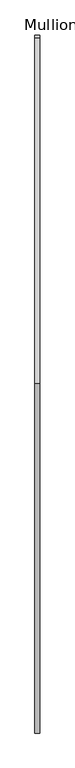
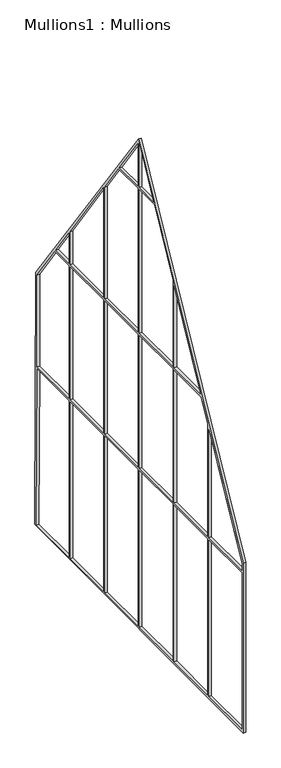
"""IFC4 building model written with IfcOpenShell, lengths in millimetres: furniture geometry, Mullions1 : Mullions."""

from ifc_helpers import new_model, si_unit, frame, origin, place, context, project, spatial, polyline, outline, extrude, source, transform, mapped, element, save


def mullions1_mullions_ce62cb3f(model_context):
    return source(origin(), model_context, "Body", "SweptSolid", [
        extrude(outline(polyline([(-815.2914129, 10421.9948916), (2662.1741469, 5558.3066591), (2696.1810543, 340.376903), (-4344.9753259, 294.4874479), (-4344.9753259, 3799.2641333), (-815.2914129, 10421.9948916)]), holes=[polyline([(-1336.3524351, 9377.9077863), (-1958.1506614, 8196.9680985), (-1958.1506614, 6419.101618), (-829.7044265, 6419.101618), (-829.7044265, 9377.9077863), (-1336.3524351, 9377.9077863)]), polyline([(-3189.0968964, 5859.1144332), (-4294.9753259, 3758.7936667), (-4294.9753259, 3628.2437726), (-3189.0968964, 3628.2437726), (-3189.0968964, 5859.1144332)]), polyline([(-4294.9753259, 3578.2437726), (-4294.9753259, 350.0), (-3189.0968964, 350.0), (-3189.0968964, 3578.2437726), (-4294.9753259, 3578.2437726)]), polyline([(2625.8824873, 3628.2437726), (2625.8824873, 5523.8225816), (2029.8069441, 6369.101618), (1556.3547101, 6369.101618), (1556.3547101, 3628.2437726), (2625.8824873, 3628.2437726)]), polyline([(2645.8824873, 350.0), (2624.8429961, 3578.2437726), (1556.3547101, 3578.2437726), (1556.3547101, 350.0), (2645.8824873, 350.0)]), polyline([(-2008.1506614, 8102.0064504), (-2894.2477674, 6419.101618), (-2008.1506614, 6419.101618), (-2008.1506614, 8102.0064504)]), polyline([(388.3251418, 8682.6630142), (388.3251418, 6419.101618), (1506.3547101, 6419.101618), (1506.3547101, 7097.2147148), (388.3251418, 8682.6630142)]), polyline([(1556.3547101, 6419.101618), (1994.5478452, 6419.101618), (1556.3547101, 7040.4917678), (1556.3547101, 6419.101618)]), polyline([(388.3251418, 3628.2437726), (1506.3547101, 3628.2437726), (1506.3547101, 6369.101618), (388.3251418, 6369.101618), (388.3251418, 3628.2437726)]), polyline([(-829.7044265, 3578.2437726), (-1958.1506614, 3578.2437726), (-1958.1506614, 350.0), (-829.7044265, 350.0), (-829.7044265, 3578.2437726)]), polyline([(388.3251418, 3578.2437726), (388.3251418, 350.0), (1506.3547101, 350.0), (1506.3547101, 3578.2437726), (388.3251418, 3578.2437726)]), polyline([(338.3251418, 3578.2437726), (-779.7044265, 3578.2437726), (-779.7044265, 350.0), (338.3251418, 350.0), (338.3251418, 3578.2437726)]), polyline([(-2008.1506614, 3578.2437726), (-3139.0968964, 3578.2437726), (-3139.0968964, 350.0), (-2008.1506614, 350.0), (-2008.1506614, 3578.2437726)]), polyline([(-779.7044265, 3628.2437726), (338.3251418, 3628.2437726), (338.3251418, 6369.101618), (-779.7044265, 6369.101618), (-779.7044265, 3628.2437726)]), polyline([(-1958.1506614, 3628.2437726), (-829.7044265, 3628.2437726), (-829.7044265, 6369.101618), (-1958.1506614, 6369.101618), (-1958.1506614, 3628.2437726)]), polyline([(-3139.0968964, 3628.2437726), (-2008.1506614, 3628.2437726), (-2008.1506614, 6369.101618), (-2920.574185, 6369.101618), (-3139.0968964, 5954.0760814), (-3139.0968964, 3628.2437726)]), polyline([(-779.7044265, 9427.9077863), (-162.2080409, 9427.9077863), (-779.7044265, 10303.5631555), (-779.7044265, 9427.9077863)]), polyline([(-829.7044265, 10340.1503851), (-1310.0260176, 9427.9077863), (-829.7044265, 9427.9077863), (-829.7044265, 10340.1503851)]), polyline([(338.3251418, 8725.2052245), (-121.948942, 9377.9077863), (-779.7044265, 9377.9077863), (-779.7044265, 6419.101618), (338.3251418, 6419.101618), (338.3251418, 8725.2052245)])]), frame((-7653.59105, 0.0, 0.0), z_axis=(1.0, 0.0, 0.0), x_axis=(0.0, 1.0, 0.0)), (0.0, 0.0, 1.0), 50.0),
    ])


if __name__ == "__main__":
    model = new_model("IFC4")
    model_context = context("Model", 3, world=origin())
    ifc_project = project(units=[si_unit("LENGTHUNIT", "METRE", prefix="MILLI")], contexts=[model_context])
    site = spatial("IfcSite", under=ifc_project)
    building = spatial("IfcBuilding", under=site)
    placement = place(None, origin())
    mullions1_mullions_shape = mullions1_mullions_ce62cb3f(model_context)
    element("IfcFurniture", 1, ObjectType="Mullions1 : Mullions", at=placement, inside=building, context=model_context, shape_type="MappedRepresentation", body=[
        mapped(mullions1_mullions_shape, transform((0.0, 0.0, 0.0), x_axis=(1.0, 0.0, 0.0), y_axis=(0.0, 1.0, 0.0), z_axis=(0.0, 0.0, 1.0))),
    ])
    save(model, "model.ifc")
